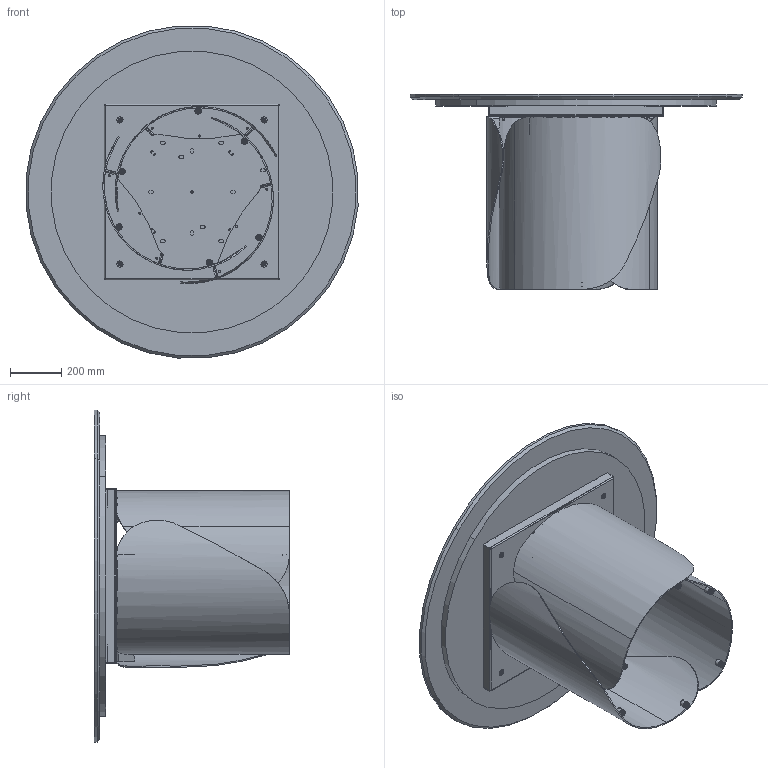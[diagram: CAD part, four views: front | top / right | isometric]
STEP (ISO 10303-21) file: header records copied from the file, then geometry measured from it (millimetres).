
FILE_DESCRIPTION (( 'STEP AP203' ), '1' );
FILE_NAME ('ON05M.STEP', '2024-08-06T13:28:18', ( '' ), ( '' ), 'SwSTEP 2.0', 'SolidWorks 2022', '' );
FILE_SCHEMA (( 'CONFIG_CONTROL_DESIGN' ));
Length unit declared in the file: millimetre
Products named in the file (17): M8xXXmm_M8x55mm; OND000000_01-00-PIASTRA SUPERIORE BASE ONDA; ON05M; TTAV0801-02-TELAIO UNIVERSALE TONDO-VASSOIO; COLLO TELAIO UNIVERSALE TTAV0801 CON FERRAMENTA_MTG TOP LEGNO-MARMO-KING; TTAV0801 TELAIO UNIVERSALE TONDO-PIASTRINA; M8xXXmm_M8x20mm; OND000000_03-00-LAMIERA CURVATA PRINCIPALE_OND00000X-00-ONDA BASE GREZZA PROTOTIPO; COLLO BASE ONDA SINGOLA CON FERRAMENTA; TTAV0801-02-TELAIO UNIVERSALE TONDO; M0X-00- D. piani marmo_D.1300; OND000000_02-00-CILINDRO DI FISSAGGIO Ø25X17 M8; TRU0000X-00-SOTTO PIANO D.XXXXmm_TRU00002 D.110cm ; PIEDINO PER ONDA; M0XMXX-00-Piani Rotondi in marmo 2024_1300; OND000000-03-ONDA BASE GREZZA; rondella M8_8X24
Assembly tree (52 placements, depth 4):
  ON05M
    COLLO TELAIO UNIVERSALE TTAV0801 CON FERRAMENTA_MTG TOP LEGNO-MARMO-KING
      TTAV0801-02-TELAIO UNIVERSALE TONDO
        TTAV0801-02-TELAIO UNIVERSALE TONDO-VASSOIO
        TTAV0801 TELAIO UNIVERSALE TONDO-PIASTRINA  x4
      rondella M8_8X24  x4
      M8xXXmm_M8x55mm  x4
    COLLO BASE ONDA SINGOLA CON FERRAMENTA  x3
      OND000000-03-ONDA BASE GREZZA
        OND000000_03-00-LAMIERA CURVATA PRINCIPALE_OND00000X-00-ONDA BASE GREZZA PROTOTIPO
        OND000000_01-00-PIASTRA SUPERIORE BASE ONDA
        OND000000_02-00-CILINDRO DI FISSAGGIO Ø25X17 M8  x2
      PIEDINO PER ONDA
    rondella M8_8X24  x12
    M8xXXmm_M8x20mm  x12
    M0XMXX-00-Piani Rotondi in marmo 2024_1300
      M0X-00- D. piani marmo_D.1300
      TRU0000X-00-SOTTO PIANO D.XXXXmm_TRU00002 D.110cm 
Bounding box: 1295.05 x 761 x 1295.05 mm (x, y, z)
Volume: 60862057.8 mm3; surface area: 9340805 mm2
Topology: 63 solids, 63 shells, 1715 faces, 4041 edges, 2479 vertices
Faces by surface type: plane 676, cylinder 573, torus 216, cone 190, bspline 60
Entity records: 21089 total; most frequent: CARTESIAN_POINT 4813, DIRECTION 2908, ORIENTED_EDGE 2752, EDGE_CURVE 1376, AXIS2_PLACEMENT_3D 1072, VERTEX_POINT 881, LINE 764, VECTOR 764
